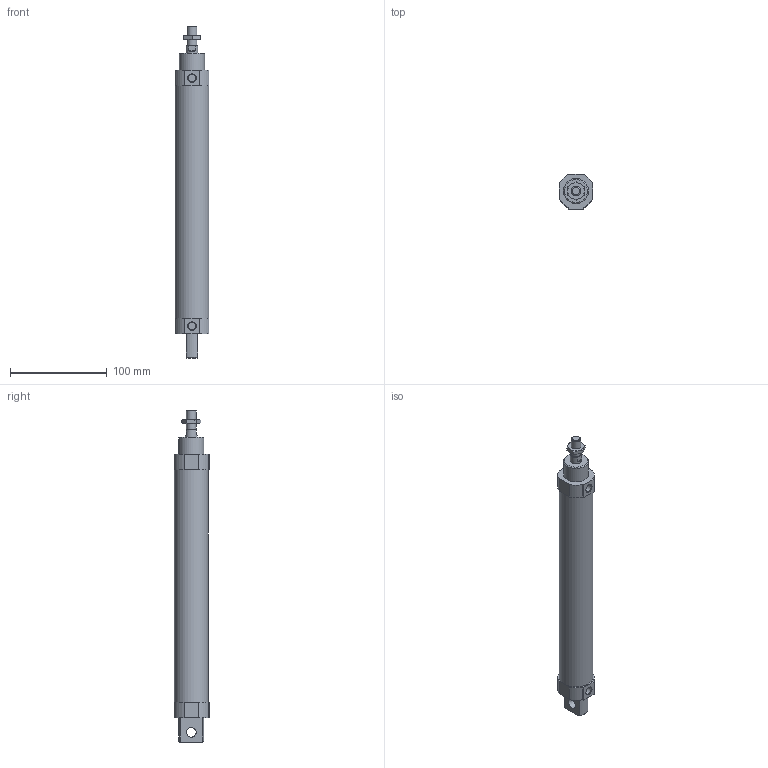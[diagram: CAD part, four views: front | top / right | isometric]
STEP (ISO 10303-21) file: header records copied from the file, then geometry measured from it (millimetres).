
FILE_DESCRIPTION((''),'2;1');
FILE_NAME('I:\3D電子目錄\氣缸\FDA\FDA\FDA\FDA30\FDA30x200.stp','2007-10-16T10:05:57',('66-2f-008'),(''),'Autodesk Inventor 11','Autodesk Inventor 11','');
FILE_SCHEMA(('AUTOMOTIVE_DESIGN { 1 0 10303 214 1 1 1 1 }'));
Length unit declared in the file: millimetre
Products named in the file (1): FDA30
Bounding box: 35 x 36.5 x 344 mm (x, y, z)
Volume: 285307.2 mm3; surface area: 37937.9 mm2
Topology: 1 solids, 1 shells, 79 faces, 184 edges, 114 vertices
Faces by surface type: plane 41, cone 20, cylinder 18
Full cylindrical faces by diameter (mm): 8 x2, 10 x3, 12 x1, 26 x1, 35 x1
Entity records: 2151 total; most frequent: CARTESIAN_POINT 426, DIRECTION 362, ORIENTED_EDGE 340, EDGE_CURVE 170, AXIS2_PLACEMENT_3D 144, VERTEX_POINT 112, EDGE_LOOP 100, FACE_OUTER_BOUND 79
